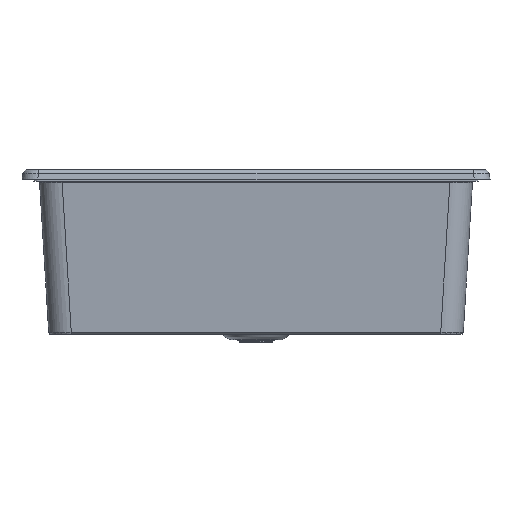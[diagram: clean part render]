
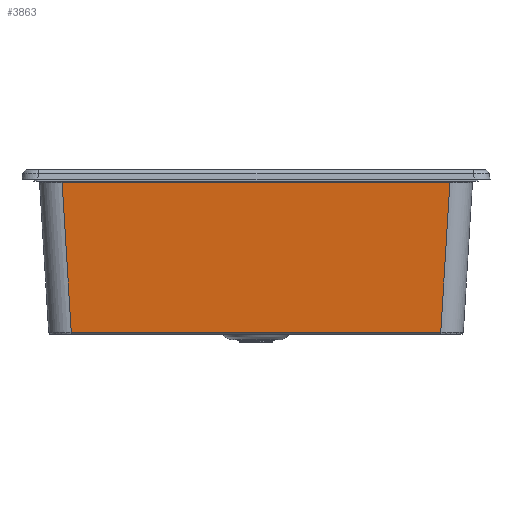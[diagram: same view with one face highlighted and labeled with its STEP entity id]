
A CAD part, front view. The second image highlights one B-rep face of the part: STEP entity #3863.
In plain terms, the highlighted planar face has unit normal (0, -0.998, -0.061).
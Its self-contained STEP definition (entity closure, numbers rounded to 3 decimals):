
#1383=B_SPLINE_CURVE_WITH_KNOTS('',1,(#77770,#77771),.UNSPECIFIED.,.F.,
 .F.,(2,2),(0.,1.),.UNSPECIFIED.);
#1386=B_SPLINE_CURVE_WITH_KNOTS('',1,(#77776,#77777),.UNSPECIFIED.,.F.,
 .F.,(2,2),(3.,4.),.UNSPECIFIED.);
#2705=PLANE('',#27459);
#3863=ADVANCED_FACE('',(#5306),#2705,.T.);
#5306=FACE_OUTER_BOUND('',#6794,.T.);
#6794=EDGE_LOOP('',(#13162,#13163,#13164,#13165));
#13162=ORIENTED_EDGE('',*,*,#17667,.F.);
#13163=ORIENTED_EDGE('',*,*,#18385,.F.);
#13164=ORIENTED_EDGE('',*,*,#17664,.F.);
#13165=ORIENTED_EDGE('',*,*,#18196,.F.);
#17664=EDGE_CURVE('',#24413,#24383,#1383,.T.);
#17667=EDGE_CURVE('',#24493,#24492,#1386,.T.);
#18196=EDGE_CURVE('',#24492,#24413,#18646,.T.);
#18385=EDGE_CURVE('',#24383,#24493,#18737,.T.);
#18646=(
BOUNDED_CURVE()
B_SPLINE_CURVE(1,(#81872,#81873),.UNSPECIFIED.,.F.,.F.)
B_SPLINE_CURVE_WITH_KNOTS((2,2),(-1.,0.),.UNSPECIFIED.)
CURVE()
GEOMETRIC_REPRESENTATION_ITEM()
RATIONAL_B_SPLINE_CURVE((1.,1.))
REPRESENTATION_ITEM('')
);
#18737=(
BOUNDED_CURVE()
B_SPLINE_CURVE(1,(#83151,#83152),.UNSPECIFIED.,.F.,.F.)
B_SPLINE_CURVE_WITH_KNOTS((2,2),(-1.,0.),.UNSPECIFIED.)
CURVE()
GEOMETRIC_REPRESENTATION_ITEM()
RATIONAL_B_SPLINE_CURVE((1.,1.))
REPRESENTATION_ITEM('')
);
#24383=VERTEX_POINT('',#76692);
#24413=VERTEX_POINT('',#76722);
#24492=VERTEX_POINT('',#76801);
#24493=VERTEX_POINT('',#76802);
#27459=AXIS2_PLACEMENT_3D('',#68203,#31732,$);
#31732=DIRECTION('',(0.,-0.998,-0.061));
#68203=CARTESIAN_POINT('',(-247.398,-230.075,-219.28));
#76692=CARTESIAN_POINT('',(-244.465,-241.612,-30.652));
#76722=CARTESIAN_POINT('',(-232.928,-230.075,-219.28));
#76801=CARTESIAN_POINT('',(232.841,-230.075,-219.28));
#76802=CARTESIAN_POINT('',(244.378,-241.612,-30.652));
#77770=CARTESIAN_POINT('',(-232.928,-230.075,-219.28));
#77771=CARTESIAN_POINT('',(-244.465,-241.612,-30.652));
#77776=CARTESIAN_POINT('',(244.378,-241.612,-30.652));
#77777=CARTESIAN_POINT('',(232.841,-230.075,-219.28));
#81872=CARTESIAN_POINT('',(232.841,-230.075,-219.28));
#81873=CARTESIAN_POINT('',(-232.928,-230.075,-219.28));
#83151=CARTESIAN_POINT('',(-244.465,-241.612,-30.652));
#83152=CARTESIAN_POINT('',(244.378,-241.612,-30.652));
